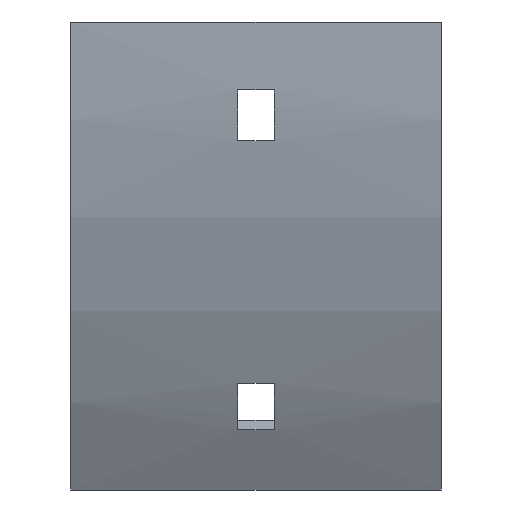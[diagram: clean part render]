
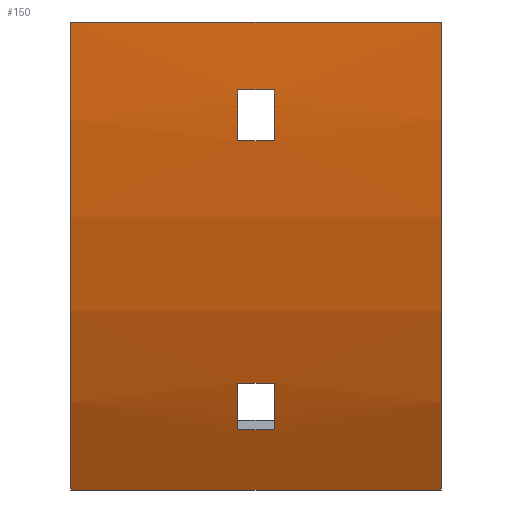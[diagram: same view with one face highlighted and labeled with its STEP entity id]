
A CAD part, front view. The second image highlights one B-rep face of the part: STEP entity #150.
In plain terms, the highlighted cylindrical face has radius 165.5 mm (diameter 331 mm), a partial arc.
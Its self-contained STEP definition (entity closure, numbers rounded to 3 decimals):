
#3 = DIRECTION ( 'NONE',  ( 0., 0., -1. ) ) ;
#12 = DIRECTION ( 'NONE',  ( 1., 0., 0. ) ) ;
#16 = ORIENTED_EDGE ( 'NONE', *, *, #1046, .T. ) ;
#17 = EDGE_CURVE ( 'NONE', #710, #118, #666, .T. ) ;
#29 = DIRECTION ( 'NONE',  ( 0., 0., 1. ) ) ;
#56 = ORIENTED_EDGE ( 'NONE', *, *, #336, .T. ) ;
#58 = EDGE_CURVE ( 'NONE', #684, #710, #559, .T. ) ;
#62 = VERTEX_POINT ( 'NONE', #899 ) ;
#63 = CARTESIAN_POINT ( 'NONE',  ( 3.25, -52.669, -63.895 ) ) ;
#79 = DIRECTION ( 'NONE',  ( 1., 0., 0. ) ) ;
#94 = EDGE_CURVE ( 'NONE', #62, #118, #1118, .T. ) ;
#112 = AXIS2_PLACEMENT_3D ( 'NONE', #1068, #1139, #370 ) ;
#118 = VERTEX_POINT ( 'NONE', #1108 ) ;
#123 = DIRECTION ( 'NONE',  ( 0., 0., 1. ) ) ;
#127 = CIRCLE ( 'NONE', #742, 165.5 ) ;
#150 = ADVANCED_FACE ( 'NONE', ( #681, #935, #527 ), #588, .T. ) ;
#171 = CARTESIAN_POINT ( 'NONE',  ( 32.75, -64.162, -21. ) ) ;
#180 = AXIS2_PLACEMENT_3D ( 'NONE', #376, #12, #3 ) ;
#194 = CARTESIAN_POINT ( 'NONE',  ( 32.75, -52.669, -63.895 ) ) ;
#239 = VERTEX_POINT ( 'NONE', #751 ) ;
#261 = CARTESIAN_POINT ( 'NONE',  ( 32.75, 100., 0. ) ) ;
#262 = ORIENTED_EDGE ( 'NONE', *, *, #58, .T. ) ;
#268 = EDGE_CURVE ( 'NONE', #239, #473, #127, .T. ) ;
#276 = VERTEX_POINT ( 'NONE', #1088 ) ;
#283 = EDGE_LOOP ( 'NONE', ( #517, #729, #957, #262 ) ) ;
#290 = VERTEX_POINT ( 'NONE', #1130 ) ;
#310 = VECTOR ( 'NONE', #595, 1000. ) ;
#332 = DIRECTION ( 'NONE',  ( 0., 0., 1. ) ) ;
#336 = EDGE_CURVE ( 'NONE', #276, #290, #618, .T. ) ;
#337 = ORIENTED_EDGE ( 'NONE', *, *, #425, .T. ) ;
#356 = LINE ( 'NONE', #600, #777 ) ;
#360 = VECTOR ( 'NONE', #954, 1000. ) ;
#362 = CIRCLE ( 'NONE', #986, 165.5 ) ;
#365 = AXIS2_PLACEMENT_3D ( 'NONE', #575, #911, #478 ) ;
#369 = EDGE_CURVE ( 'NONE', #436, #1044, #878, .T. ) ;
#370 = DIRECTION ( 'NONE',  ( 0., 0., -1. ) ) ;
#376 = CARTESIAN_POINT ( 'NONE',  ( -32.75, 100., 0. ) ) ;
#401 = CARTESIAN_POINT ( 'NONE',  ( 32.75, -65.5, 0. ) ) ;
#425 = EDGE_CURVE ( 'NONE', #473, #276, #356, .T. ) ;
#436 = VERTEX_POINT ( 'NONE', #63 ) ;
#442 = AXIS2_PLACEMENT_3D ( 'NONE', #261, #1092, #332 ) ;
#473 = VERTEX_POINT ( 'NONE', #1147 ) ;
#478 = DIRECTION ( 'NONE',  ( 0., 0., -1. ) ) ;
#496 = DIRECTION ( 'NONE',  ( -1., 0., 0. ) ) ;
#497 = CARTESIAN_POINT ( 'NONE',  ( -3.25, 100., 0. ) ) ;
#506 = ORIENTED_EDGE ( 'NONE', *, *, #843, .F. ) ;
#517 = ORIENTED_EDGE ( 'NONE', *, *, #17, .T. ) ;
#527 = FACE_BOUND ( 'NONE', #724, .T. ) ;
#559 = LINE ( 'NONE', #401, #730 ) ;
#560 = ORIENTED_EDGE ( 'NONE', *, *, #369, .F. ) ;
#575 = CARTESIAN_POINT ( 'NONE',  ( 32.75, 100., 0. ) ) ;
#578 = EDGE_CURVE ( 'NONE', #975, #1140, #682, .T. ) ;
#588 = CYLINDRICAL_SURFACE ( 'NONE', #442, 165.5 ) ;
#595 = DIRECTION ( 'NONE',  ( -1., 0., 0. ) ) ;
#600 = CARTESIAN_POINT ( 'NONE',  ( 32.75, -65.064, -12. ) ) ;
#618 = CIRCLE ( 'NONE', #112, 165.5 ) ;
#632 = CIRCLE ( 'NONE', #916, 165.5 ) ;
#659 = ORIENTED_EDGE ( 'NONE', *, *, #268, .T. ) ;
#666 = CIRCLE ( 'NONE', #180, 165.5 ) ;
#674 = ORIENTED_EDGE ( 'NONE', *, *, #578, .F. ) ;
#681 = FACE_OUTER_BOUND ( 'NONE', #283, .T. ) ;
#682 = LINE ( 'NONE', #1148, #360 ) ;
#684 = VERTEX_POINT ( 'NONE', #824 ) ;
#697 = CARTESIAN_POINT ( 'NONE',  ( -3.25, -48.95, -72.14 ) ) ;
#702 = DIRECTION ( 'NONE',  ( 0., 0., -1. ) ) ;
#708 = DIRECTION ( 'NONE',  ( -1., 0., 0. ) ) ;
#710 = VERTEX_POINT ( 'NONE', #1096 ) ;
#724 = EDGE_LOOP ( 'NONE', ( #725, #560, #506, #674 ) ) ;
#725 = ORIENTED_EDGE ( 'NONE', *, *, #811, .F. ) ;
#729 = ORIENTED_EDGE ( 'NONE', *, *, #94, .F. ) ;
#730 = VECTOR ( 'NONE', #496, 1000. ) ;
#742 = AXIS2_PLACEMENT_3D ( 'NONE', #497, #831, #29 ) ;
#750 = CARTESIAN_POINT ( 'NONE',  ( 32.75, -43.327, -82.75 ) ) ;
#751 = CARTESIAN_POINT ( 'NONE',  ( -3.25, -64.162, -21. ) ) ;
#761 = DIRECTION ( 'NONE',  ( 1., 0., 0. ) ) ;
#762 = DIRECTION ( 'NONE',  ( -1., 0., 0. ) ) ;
#777 = VECTOR ( 'NONE', #761, 1000. ) ;
#811 = EDGE_CURVE ( 'NONE', #1044, #975, #362, .T. ) ;
#812 = DIRECTION ( 'NONE',  ( -1., 0., 0. ) ) ;
#824 = CARTESIAN_POINT ( 'NONE',  ( 32.75, -65.5, 0. ) ) ;
#825 = VECTOR ( 'NONE', #762, 1000. ) ;
#826 = EDGE_LOOP ( 'NONE', ( #16, #659, #337, #56 ) ) ;
#831 = DIRECTION ( 'NONE',  ( -1., 0., 0. ) ) ;
#834 = VECTOR ( 'NONE', #708, 1000. ) ;
#843 = EDGE_CURVE ( 'NONE', #1140, #436, #632, .T. ) ;
#852 = CIRCLE ( 'NONE', #365, 165.5 ) ;
#878 = LINE ( 'NONE', #194, #834 ) ;
#899 = CARTESIAN_POINT ( 'NONE',  ( 32.75, -43.327, -82.75 ) ) ;
#911 = DIRECTION ( 'NONE',  ( 1., 0., 0. ) ) ;
#916 = AXIS2_PLACEMENT_3D ( 'NONE', #965, #812, #123 ) ;
#935 = FACE_BOUND ( 'NONE', #826, .T. ) ;
#943 = CARTESIAN_POINT ( 'NONE',  ( -3.25, 100., 0. ) ) ;
#954 = DIRECTION ( 'NONE',  ( 1., 0., 0. ) ) ;
#957 = ORIENTED_EDGE ( 'NONE', *, *, #983, .F. ) ;
#960 = CARTESIAN_POINT ( 'NONE',  ( 3.25, -48.95, -72.14 ) ) ;
#965 = CARTESIAN_POINT ( 'NONE',  ( 3.25, 100., 0. ) ) ;
#975 = VERTEX_POINT ( 'NONE', #697 ) ;
#983 = EDGE_CURVE ( 'NONE', #684, #62, #852, .T. ) ;
#986 = AXIS2_PLACEMENT_3D ( 'NONE', #943, #79, #702 ) ;
#1009 = LINE ( 'NONE', #171, #310 ) ;
#1044 = VERTEX_POINT ( 'NONE', #1123 ) ;
#1046 = EDGE_CURVE ( 'NONE', #290, #239, #1009, .T. ) ;
#1068 = CARTESIAN_POINT ( 'NONE',  ( 3.25, 100., 0. ) ) ;
#1088 = CARTESIAN_POINT ( 'NONE',  ( 3.25, -65.064, -12. ) ) ;
#1092 = DIRECTION ( 'NONE',  ( -1., 0., 0. ) ) ;
#1096 = CARTESIAN_POINT ( 'NONE',  ( -32.75, -65.5, 0. ) ) ;
#1108 = CARTESIAN_POINT ( 'NONE',  ( -32.75, -43.327, -82.75 ) ) ;
#1118 = LINE ( 'NONE', #750, #825 ) ;
#1123 = CARTESIAN_POINT ( 'NONE',  ( -3.25, -52.669, -63.895 ) ) ;
#1130 = CARTESIAN_POINT ( 'NONE',  ( 3.25, -64.162, -21. ) ) ;
#1139 = DIRECTION ( 'NONE',  ( 1., 0., 0. ) ) ;
#1140 = VERTEX_POINT ( 'NONE', #960 ) ;
#1147 = CARTESIAN_POINT ( 'NONE',  ( -3.25, -65.064, -12. ) ) ;
#1148 = CARTESIAN_POINT ( 'NONE',  ( 32.75, -48.95, -72.14 ) ) ;
